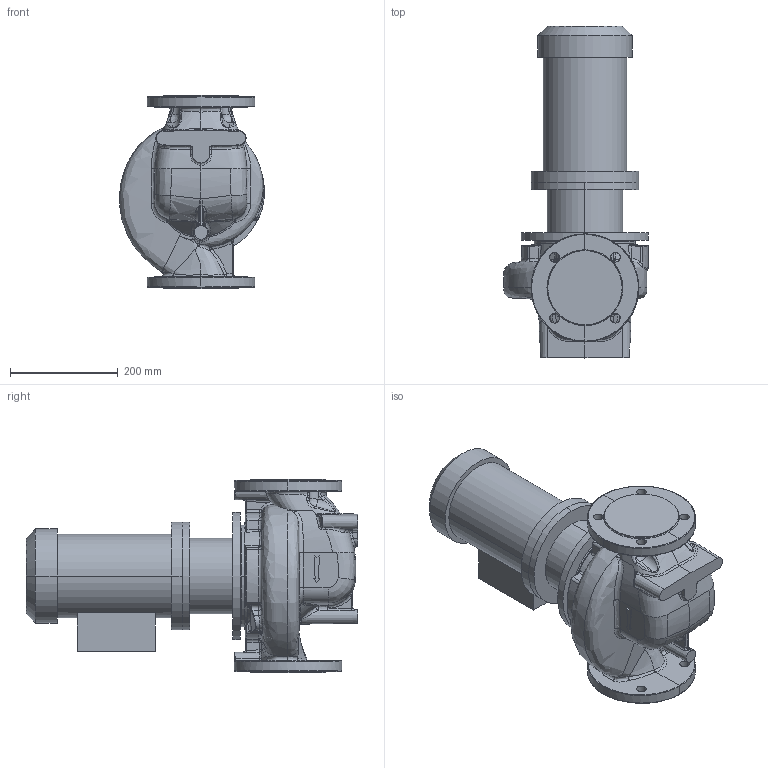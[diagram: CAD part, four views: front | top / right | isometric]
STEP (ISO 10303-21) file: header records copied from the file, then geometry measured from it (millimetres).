
FILE_DESCRIPTION (( 'STEP AP214' ), '1' );
FILE_NAME ('KRL 80-160-4-1,5.STEP', '2026-04-06T12:42:52', ( '' ), ( '' ), 'SwSTEP 2.0', 'SolidWorks 2016', '' );
FILE_SCHEMA (( 'AUTOMOTIVE_DESIGN' ));
Length unit declared in the file: millimetre
Products named in the file (1): KRL 80-160-4-1,5
Bounding box: 269.24 x 616.3 x 360 mm (x, y, z)
Volume: 19151203.9 mm3; surface area: 941745.5 mm2
Topology: 4 solids, 5 shells, 589 faces, 1479 edges, 888 vertices
Faces by surface type: bspline 319, cylinder 115, plane 96, cone 31, torus 16, sphere 12
Entity records: 59938 total; most frequent: CARTESIAN_POINT 42340, ORIENTED_EDGE 2896, DIRECTION 1510, EDGE_CURVE 1448, VERTEX_POINT 888, B_SPLINE_CURVE_WITH_KNOTS 707, AXIS2_PLACEMENT_3D 641, EDGE_LOOP 624
